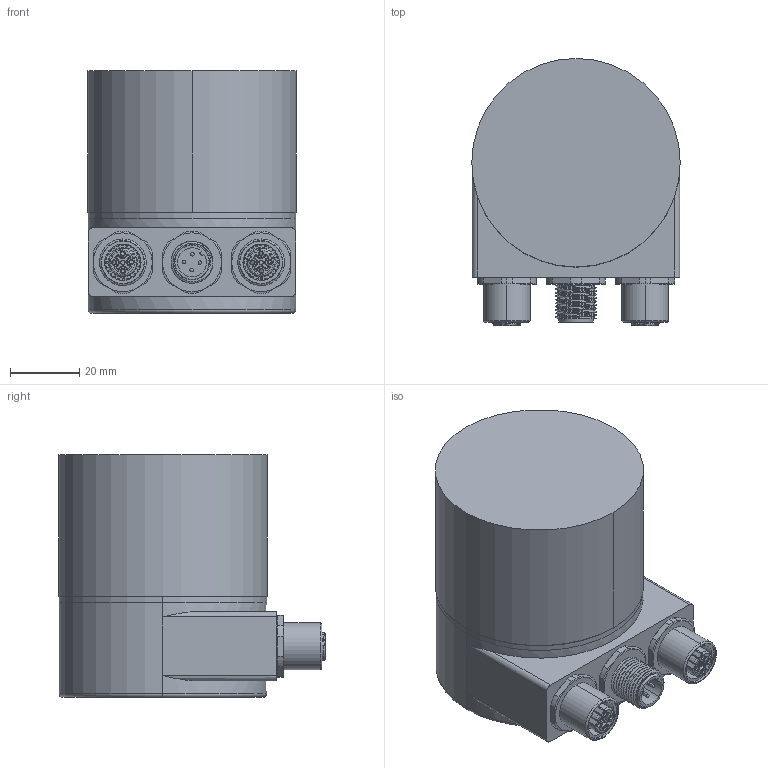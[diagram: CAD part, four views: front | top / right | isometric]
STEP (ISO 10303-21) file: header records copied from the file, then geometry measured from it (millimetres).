
FILE_DESCRIPTION (( 'STEP AP203' ), '1' );
FILE_NAME ('Drawing-OC-6-EI-703-2NM-EIREIR-Y-PRM-N.STEP', '2013-10-21T13:13:36', ( 'Admin' ), ( 'Microsoft' ), 'SwSTEP 2.0', 'SolidWorks 2006104', '' );
FILE_SCHEMA (( 'CONFIG_CONTROL_DESIGN' ));
Products named in the file (1): Drawing-OC-6-EI-703-2NM-EIREIR-Y-PRM-N
Bounding box: 60.3 x 77.15 x 70.25 mm (x, y, z)
Volume: 69351.3 mm3; surface area: 63593.6 mm2
Topology: 25 solids, 25 shells, 1271 faces, 3263 edges, 2095 vertices
Faces by surface type: cylinder 672, plane 295, cone 200, bspline 60, torus 40, sphere 4
Entity records: 47998 total; most frequent: CARTESIAN_POINT 17698, ORIENTED_EDGE 6470, DIRECTION 6232, EDGE_CURVE 3235, AXIS2_PLACEMENT_3D 2547, VERTEX_POINT 2087, EDGE_LOOP 1418, CIRCLE 1335
